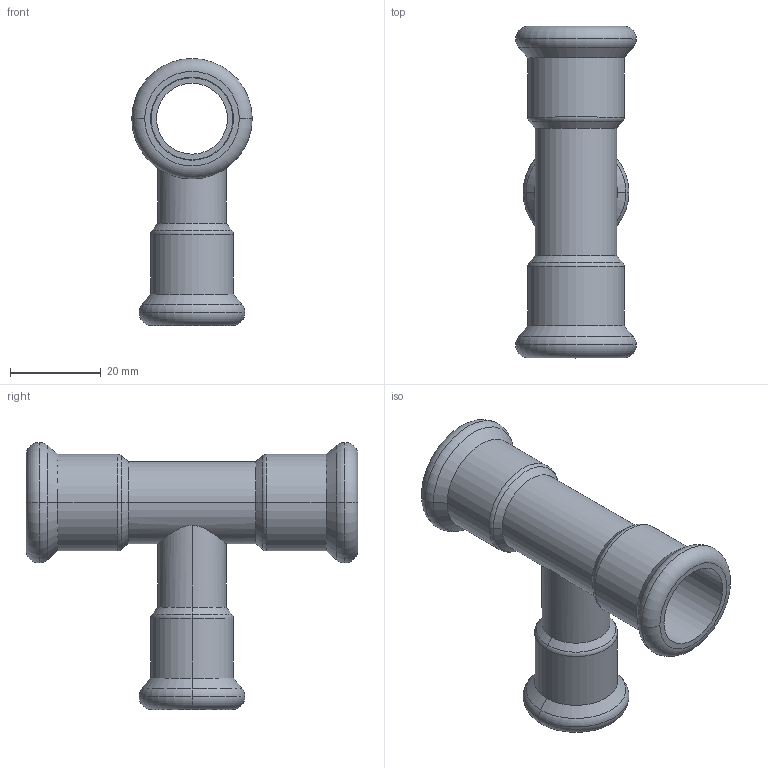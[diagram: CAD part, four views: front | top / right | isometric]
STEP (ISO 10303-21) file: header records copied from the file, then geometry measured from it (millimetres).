
FILE_DESCRIPTION(('CoCreate Modeling STEP Export'),'2;1');
FILE_NAME('C1415 18x15x18.stp','2014-11-11T17:03:51',(''),(''),'CoCreate Modeling STEP processor for AP214 (Solid Model)','CoCreate Modeling 17.00A 17-Jun-2010 (C) Parametric Technology GmbH','');
FILE_SCHEMA(('AUTOMOTIVE_DESIGN { 1 0 10303 214 1 1 1 1 }'));
Length unit declared in the file: millimetre
Products named in the file (2): C1415_18x15x18
Assembly tree (1 placements, depth 2):
  C1415_18x15x18
    C1415_18x15x18
Bounding box: 26.5 x 73 x 58.75 mm (x, y, z)
Volume: 11319.5 mm3; surface area: 13522.8 mm2
Topology: 1 solids, 1 shells, 66 faces, 135 edges, 79 vertices
Faces by surface type: cylinder 27, torus 18, cone 12, plane 9
Entity records: 2494 total; most frequent: CARTESIAN_POINT 1267, ORIENTED_EDGE 270, DIRECTION 218, EDGE_CURVE 135, AXIS2_PLACEMENT_3D 90, VERTEX_POINT 79, EDGE_LOOP 76, FACE_OUTER_BOUND 66
